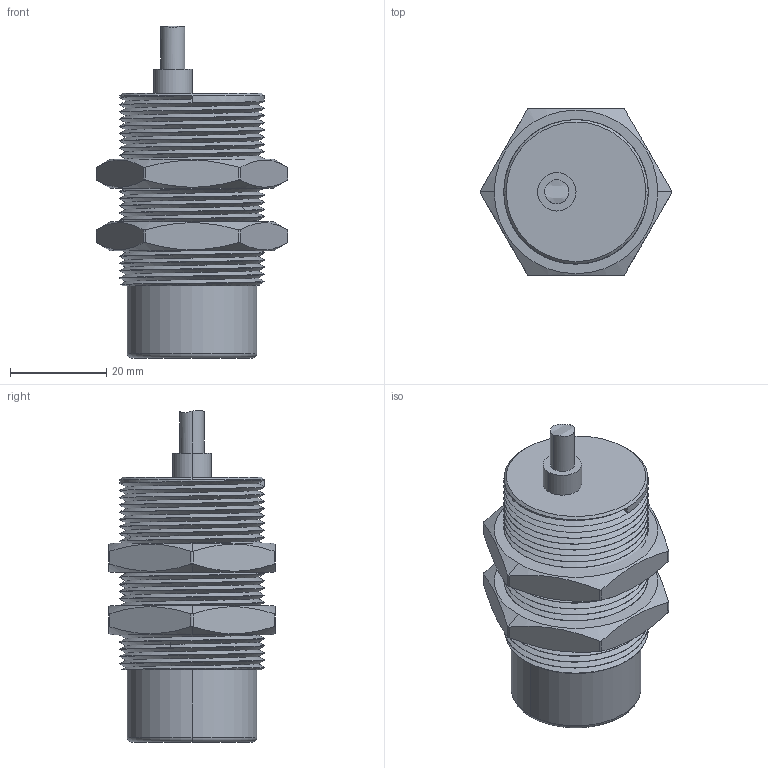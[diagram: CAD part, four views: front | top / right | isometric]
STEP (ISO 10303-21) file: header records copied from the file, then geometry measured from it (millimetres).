
FILE_DESCRIPTION((''),'2;1');
FILE_NAME('M30_FQP_L55_ASM','2019-07-17T',('Administrator'),(''),'PRO/ENGINEER BY PARAMETRIC TECHNOLOGY CORPORATION, 2012130','PRO/ENGINEER BY PARAMETRIC TECHNOLOGY CORPORATION, 2012130','');
FILE_SCHEMA(('AUTOMOTIVE_DESIGN { 1 0 10303 214 1 1 1 1 }'));
Length unit declared in the file: millimetre
Products named in the file (3): M30_FQP_L55; M30_LM; M30_FQP_L55_ASM
Assembly tree (3 placements, depth 2):
  M30_FQP_L55_ASM
    M30_FQP_L55
    M30_LM  x2
Bounding box: 39.85 x 34.64 x 68.99 mm (x, y, z)
Volume: 40141.3 mm3; surface area: 14467.1 mm2
Topology: 3 solids, 3 shells, 141 faces, 385 edges, 253 vertices
Faces by surface type: cylinder 81, plane 23, bspline 23, cone 11, torus 2, extrusion 1
Entity records: 12166 total; most frequent: CARTESIAN_POINT 8815, ORIENTED_EDGE 604, DIRECTION 350, EDGE_CURVE 302, PRESENTATION_STYLE_ASSIGNMENT 225, STYLED_ITEM 220, CURVE_STYLE 219, VERTEX_POINT 198
